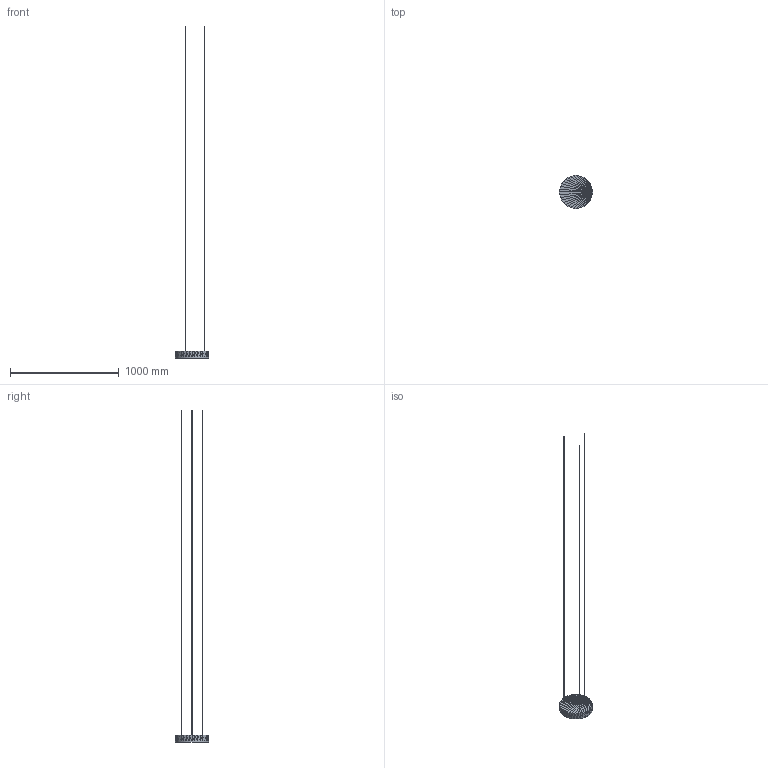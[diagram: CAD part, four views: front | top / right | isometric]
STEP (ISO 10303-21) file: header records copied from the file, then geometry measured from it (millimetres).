
FILE_DESCRIPTION(('ISINAC STEP AP214'),'2;1');
FILE_NAME('ISINAC_CIR.305_60mm_COLGADO','2026-05-03T10:49:19',('ISINAC'),('www.isinac.com'),'ISINAC BIM Generator 1.0','','');
FILE_SCHEMA(('AUTOMOTIVE_DESIGN'));
Length unit declared in the file: millimetre
Products named in the file (1): ISINAC_CIR.305_60mm_COLGADO
Bounding box: 305 x 305 x 3060 mm (x, y, z)
Surface area: 283835.9 mm2 (no closed solid volume)
Topology: 0 solids, 200 shells, 200 faces, 600 edges, 600 vertices
Faces by surface type: plane 200
Entity records: 2213 total; most frequent: CARTESIAN_POINT 800, DIRECTION 400, POLY_LOOP 200, FACE_OUTER_BOUND 200, AXIS2_PLACEMENT_3D 200, PLANE 200, FACE_SURFACE 200, CLOSED_SHELL 1
